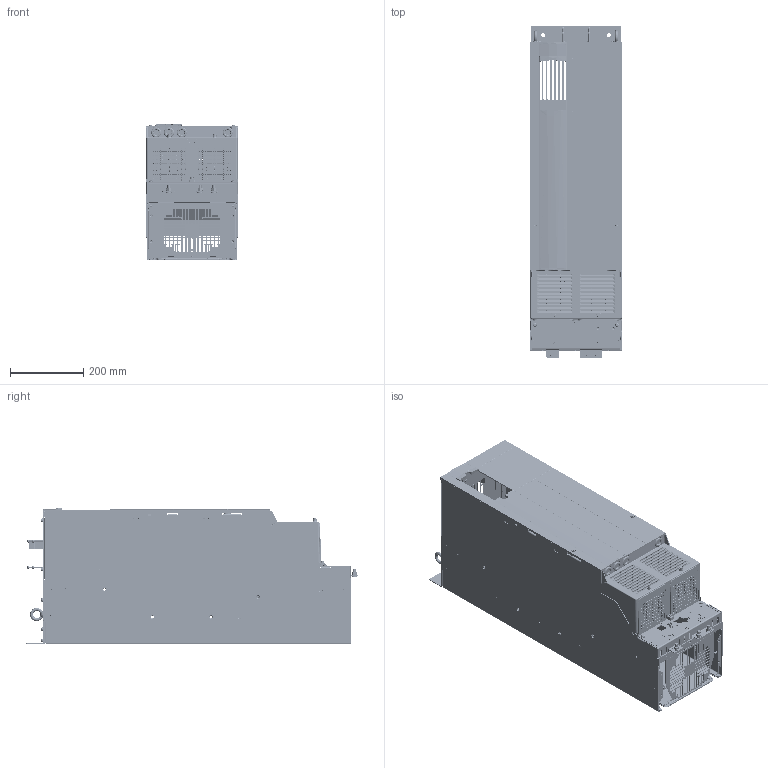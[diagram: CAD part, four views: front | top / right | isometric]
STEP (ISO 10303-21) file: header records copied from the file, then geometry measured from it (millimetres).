
FILE_DESCRIPTION((''),'2;1');
FILE_NAME('P454_D1_PRODUCTION_ASM','2017-03-06T',('u246244'),('Danfoss Power Electronics'),'CREO PARAMETRIC BY PTC INC, 2015480','CREO PARAMETRIC BY PTC INC, 2015480','');
FILE_SCHEMA(('CONFIG_CONTROL_DESIGN','GEOMETRIC_VALIDATION_PROPERTIES_MIM'));
Length unit declared in the file: millimetre
Products named in the file (82): 177G3110; FH-M6-12-ZI; S-M8-1-ZI; TPS-5MM-16; TPS-5MM-10; 177G3110_ASM; 177G4027; TPS-4MM-8; 177G4027_ASM; 177G3143; 24516; CAPBANK_D1_T5_P454_ASM; 177G8745; SS-M5-2-ZI; S-M4-2-ZI; 177G8745_ASM; 177G4900; 177G4900_ASM; SF-5-16-ZI; 177G8581_ASM; 175L8191; PENN-FH-M5-10-ZI; 175L8191_ASM; 26513; 177G8265; 177G8265_ASM; 177G8580; 177G8266; 177G8266_ASM; 177G8579; 177G4876; 681X9143; 177G4542; 177G4542_ASM; 177G4833; 177G4833_ASM; 177G4842_ASM; 177G5805; 177G4517; 177G4541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
Assembly tree (211 placements, depth 5):
  P454_D1_PRODUCTION_ASM
    177G3110_ASM
      177G3110
      FH-M6-12-ZI  x2
      S-M8-1-ZI  x2
      TPS-5MM-16
      TPS-5MM-10  x2
    177G4027_ASM
      177G4027
      TPS-4MM-8  x4
    CAPBANK_D1_T5_P454_ASM
      177G3143
      24516
    P454_D1_CH_ENCLOSURE_ASM
      177G8581_ASM
        177G8745_ASM
          177G8745
          SS-M5-2-ZI  x6
          S-M4-2-ZI  x2
        177G4900_ASM  x2
          177G4900
        SF-5-16-ZI  x4
      175L8191_ASM  x2
        175L8191
        PENN-FH-M5-10-ZI
      26513  x4
      177G8265_ASM
        177G8265
      177G8580  x2
      177G8266_ASM
        177G8266
      177G8579  x2
      177G4876
      681X9143  x12
      177G4842_ASM
        177G4542_ASM
          177G4542
          TPS-5MM-10  x2
          SS-M5-2-ZI  x4
        177G4833_ASM
          177G4833
        SF-5-16-ZI  x6
      177G5805  x2
      177G4517  x2
      177G4841_ASM
        177G4541_ASM
          177G4541
          SS-M5-2-ZI  x4
          TPS-5MM-10  x3
        177G4832_ASM
          177G4832
        SF-5-16-ZI  x6
      177G4186
      177G4518  x5
      177G4187
      130B3267  x4
      177G4421  x2
      24516  x2
      177G4513  x12
      177G4510  x4
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Bounding box: 250 x 909.4 x 374.88 mm (x, y, z)
Volume: 4324651.3 mm3; surface area: 3889026.5 mm2
Topology: 187 solids, 187 shells, 15004 faces, 39158 edges, 24975 vertices
Faces by surface type: plane 8731, cylinder 3960, cone 717, bspline 651, torus 636, sphere 230, revolution 64, extrusion 15
Entity records: 486617 total; most frequent: CARTESIAN_POINT 106560, ORIENTED_EDGE 61516, DIRECTION 58140, EDGE_CURVE 30758, PRESENTATION_STYLE_ASSIGNMENT 27683, STYLED_ITEM 27602, CURVE_STYLE 27331, VECTOR 20834
